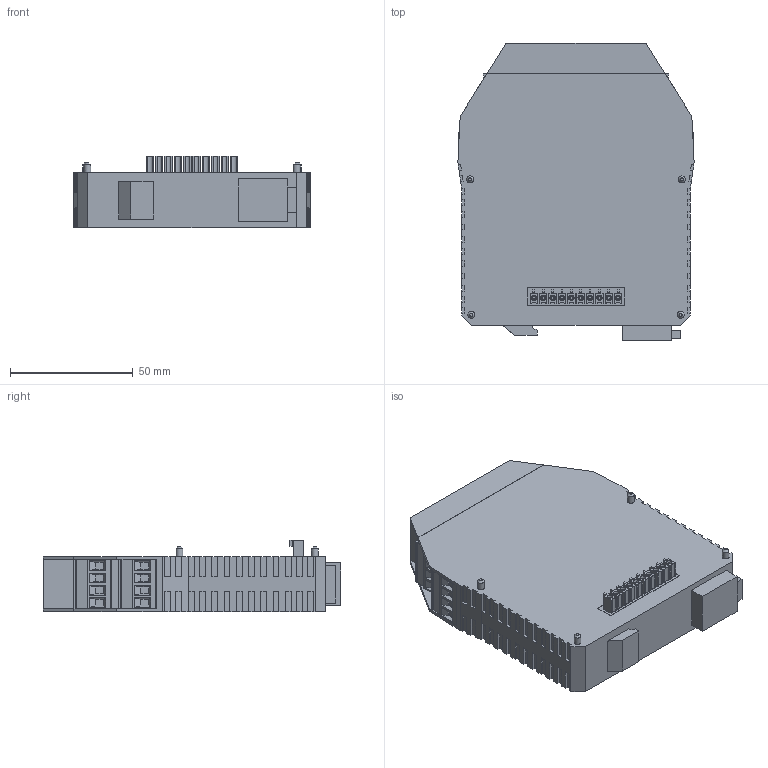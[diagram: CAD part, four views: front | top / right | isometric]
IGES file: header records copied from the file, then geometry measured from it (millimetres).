
Global section: file name: C:\Users\U0017151\Desktop\step-Daten\R1_190_0038_0_E_AA.igs; native system: NX V9.0; preprocessor: SIEMENS PLM Software NX 9.0; date: 20160608.112530; units: millimetre
Bounding box: 96.4 x 121.35 x 29.2 mm (x, y, z)
Surface area: 39959.1 mm2 (no closed solid volume)
Topology: 0 solids, 0 shells, 1070 faces, 5981 edges, 5902 vertices
Faces by surface type: bspline 1070
